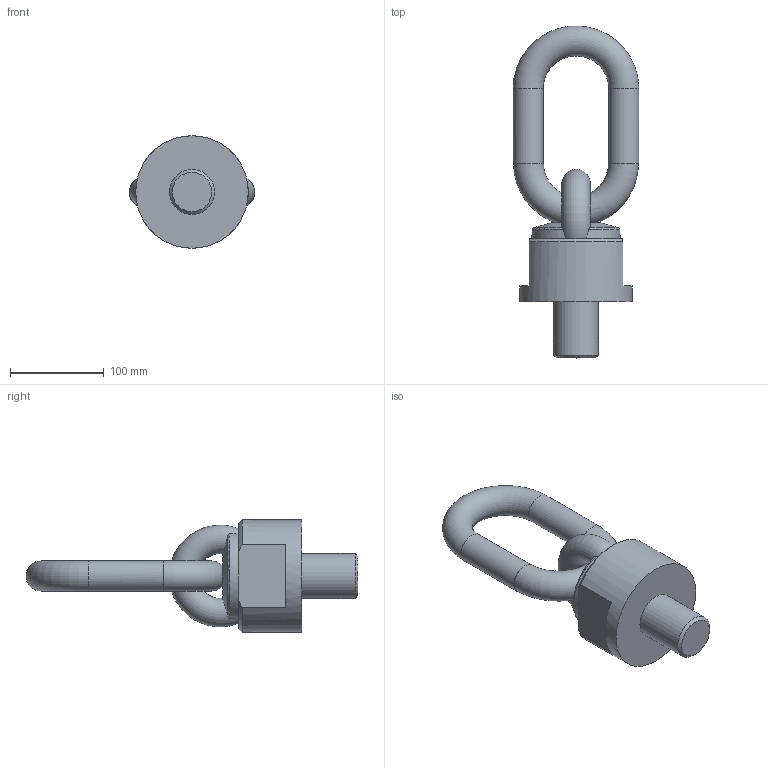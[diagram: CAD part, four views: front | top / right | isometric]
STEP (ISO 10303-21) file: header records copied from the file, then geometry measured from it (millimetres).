
FILE_DESCRIPTION( ( 'STEP AP203' ), '1' );
FILE_NAME( 'p:/temp/worker_17/temp/app_55_0201906261457206660737010e898ce_000000_00_00_000000/format_1/C800X1704860.stp', '2019-06-26T12:57:21', ( '' ), ( '' ), ' ', 'PARTsolutions', ' ' );
FILE_SCHEMA( ( 'CONFIG_CONTROL_DESIGN' ) );
Length unit declared in the file: millimetre
Products named in the file (1): _C800X1704860
Bounding box: 134 x 353.96 x 120 mm (x, y, z)
Volume: 1406721.4 mm3; surface area: 116995.3 mm2
Topology: 1 solids, 1 shells, 28 faces, 70 edges, 44 vertices
Faces by surface type: plane 12, cylinder 6, torus 5, cone 5
Full cylindrical faces by diameter (mm): 32 x2, 48 x1, 120 x1
Entity records: 1253 total; most frequent: CARTESIAN_POINT 603, DIRECTION 122, ORIENTED_EDGE 116, EDGE_CURVE 58, AXIS2_PLACEMENT_3D 57, EDGE_LOOP 42, VERTEX_POINT 41, FACE_OUTER_BOUND 35
